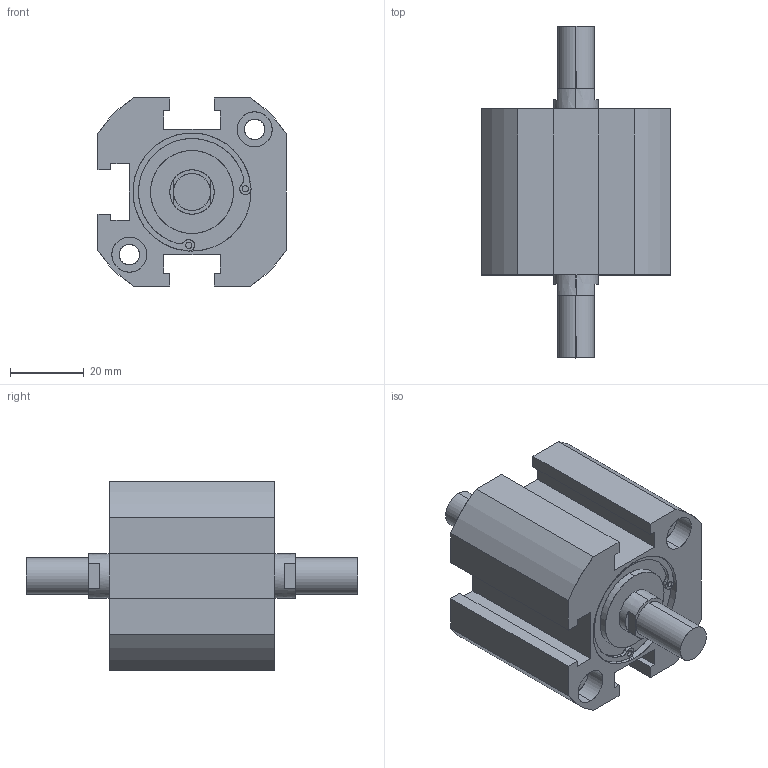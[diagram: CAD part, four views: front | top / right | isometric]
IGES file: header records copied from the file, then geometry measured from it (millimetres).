
Start section: SolidWorks IGES file using analytic representation for surfaces
Global section: file name: C:\Users\Toshiba\Desktop\XG#M7-32D-10.IGS; native system: SolidWorks 2014; preprocessor: SolidWorks 2014; author: Toshiba; date: 160524.102336; units: millimetre
Bounding box: 51 x 90 x 51 mm (x, y, z)
Surface area: 20157.4 mm2 (no closed solid volume)
Topology: 0 solids, 0 shells, 133 faces, 2176 edges, 2172 vertices
Faces by surface type: revolution 73, bspline 60
